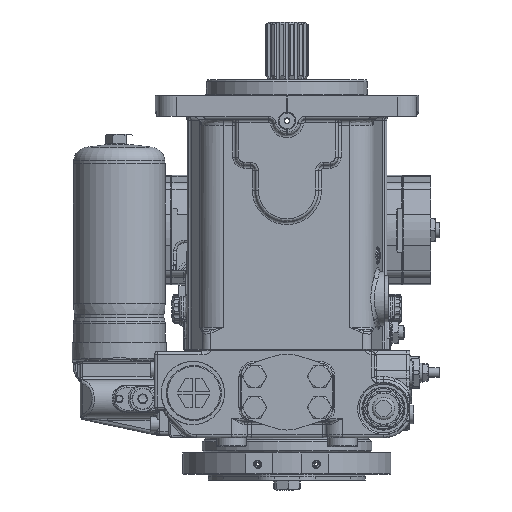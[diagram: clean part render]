
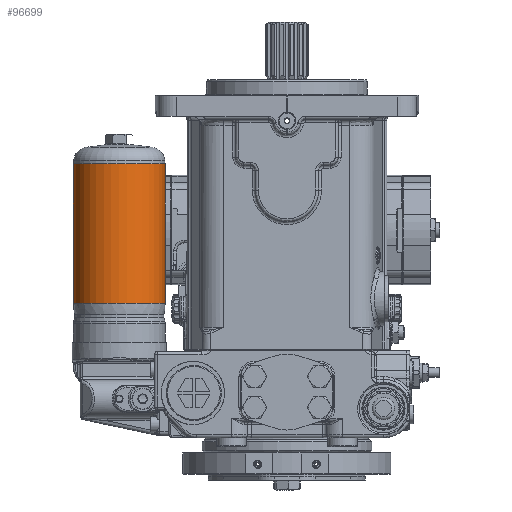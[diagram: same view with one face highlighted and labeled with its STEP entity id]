
A CAD part, front view. The second image highlights one B-rep face of the part: STEP entity #96699.
In plain terms, the highlighted cylindrical face has radius 47 mm (diameter 94 mm), a full revolution.
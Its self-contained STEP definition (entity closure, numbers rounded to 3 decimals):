
#7783 = DIRECTION ( 'NONE',  ( 0., 0., 1. ) ) ;
#8595 = FACE_OUTER_BOUND ( 'NONE', #61647, .T. ) ;
#14387 = AXIS2_PLACEMENT_3D ( 'NONE', #114732, #75588, #106962 ) ;
#14496 = VERTEX_POINT ( 'NONE', #82087 ) ;
#15698 = CARTESIAN_POINT ( 'NONE',  ( -219., -17., -213.545 ) ) ;
#17810 = CARTESIAN_POINT ( 'NONE',  ( -172., -17., -50.7 ) ) ;
#19599 = DIRECTION ( 'NONE',  ( -1., 0., 0. ) ) ;
#40709 = EDGE_CURVE ( 'NONE', #14496, #14496, #93955, .T. ) ;
#59024 = DIRECTION ( 'NONE',  ( -1., 0., 0. ) ) ;
#59809 = EDGE_CURVE ( 'NONE', #126569, #126569, #96389, .T. ) ;
#61647 = EDGE_LOOP ( 'NONE', ( #112284 ) ) ;
#68724 = CYLINDRICAL_SURFACE ( 'NONE', #120253, 47. ) ;
#71187 = DIRECTION ( 'NONE',  ( 0., 0., 1. ) ) ;
#75588 = DIRECTION ( 'NONE',  ( 0., 0., 1. ) ) ;
#79191 = AXIS2_PLACEMENT_3D ( 'NONE', #132069, #71187, #59024 ) ;
#82087 = CARTESIAN_POINT ( 'NONE',  ( -219., -17., -70.7 ) ) ;
#89650 = FACE_OUTER_BOUND ( 'NONE', #123383, .T. ) ;
#93955 = CIRCLE ( 'NONE', #14387, 47. ) ;
#94396 = ORIENTED_EDGE ( 'NONE', *, *, #40709, .F. ) ;
#96389 = CIRCLE ( 'NONE', #79191, 47. ) ;
#96699 = ADVANCED_FACE ( 'NONE', ( #89650, #8595 ), #68724, .T. ) ;
#106962 = DIRECTION ( 'NONE',  ( -1., 0., 0. ) ) ;
#112284 = ORIENTED_EDGE ( 'NONE', *, *, #59809, .T. ) ;
#114732 = CARTESIAN_POINT ( 'NONE',  ( -172., -17., -70.7 ) ) ;
#120253 = AXIS2_PLACEMENT_3D ( 'NONE', #17810, #7783, #19599 ) ;
#123383 = EDGE_LOOP ( 'NONE', ( #94396 ) ) ;
#126569 = VERTEX_POINT ( 'NONE', #15698 ) ;
#132069 = CARTESIAN_POINT ( 'NONE',  ( -172., -17., -213.545 ) ) ;
